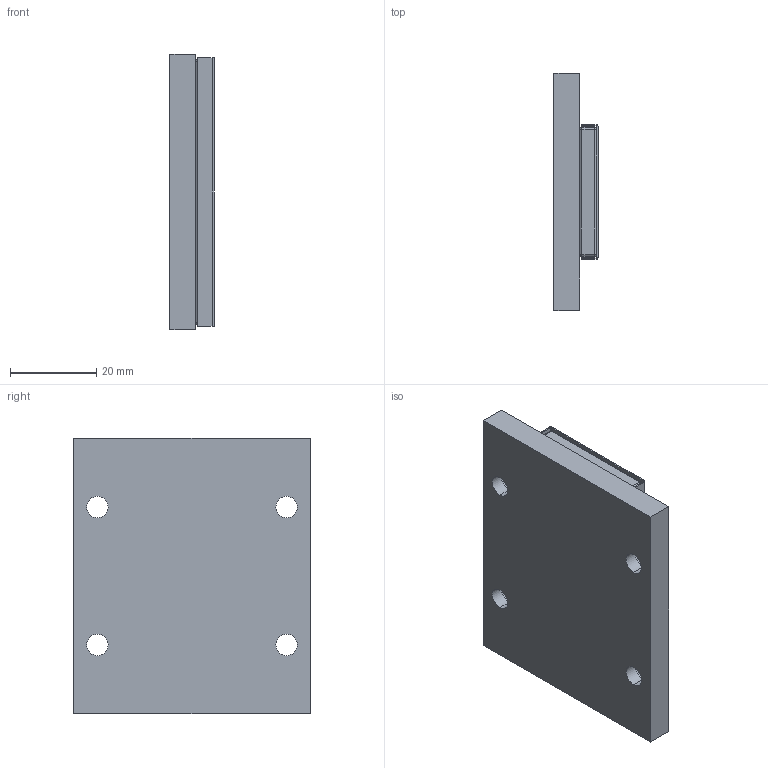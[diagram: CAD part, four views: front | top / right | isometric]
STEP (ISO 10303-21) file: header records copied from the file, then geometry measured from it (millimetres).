
FILE_DESCRIPTION (( 'STEP AP214' ), '1' );
FILE_NAME ('PIXM030-TL064-C.STEP', '2019-03-08T10:31:01', ( '' ), ( '' ), 'SwSTEP 2.0', 'SolidWorks 2016', '' );
FILE_SCHEMA (( 'AUTOMOTIVE_DESIGN' ));
Length unit declared in the file: millimetre
Products named in the file (4): 001SM030000001-CUSTOMER_TL064; 001SM030LXXX01_TL64; PIXM030-TL064-C; 001SM030LXXX02_TL064
Assembly tree (3 placements, depth 2):
  PIXM030-TL064-C
    001SM030LXXX01_TL64
    001SM030000001-CUSTOMER_TL064
    001SM030LXXX02_TL064
Bounding box: 10.3 x 55 x 64 mm (x, y, z)
Volume: 28270.8 mm3; surface area: 17946.1 mm2
Topology: 3 solids, 3 shells, 85 faces, 190 edges, 108 vertices
Faces by surface type: plane 45, cylinder 32, sphere 8
Entity records: 2430 total; most frequent: DIRECTION 428, CARTESIAN_POINT 381, ORIENTED_EDGE 364, EDGE_CURVE 182, AXIS2_PLACEMENT_3D 155, LINE 118, VECTOR 118, VERTEX_POINT 108
